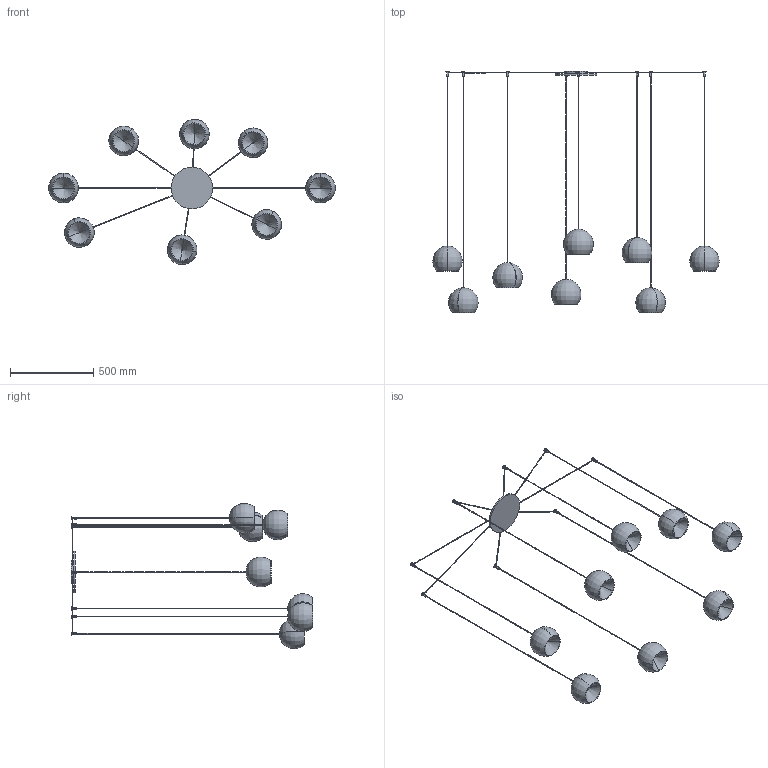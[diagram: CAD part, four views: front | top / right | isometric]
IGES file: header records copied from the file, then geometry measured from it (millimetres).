
Start section: SolidWorks IGES file using analytic representation for surfaces
Global section: file name: Y:\eforma\TECNICO\SOLIDWORKS\E-FORMA\09-LAMPADE\CHERRY\02 parts\CHRA6-00-CHERRY_8 sospensione.IGS; native system: SolidWorks 2022; preprocessor: SolidWorks 2022; author: eforma.tech; date: 250506.081822; units: millimetre
Bounding box: 1719.72 x 1450 x 873.69 mm (x, y, z)
Volume: 2385411.7 mm3; surface area: 1963060.6 mm2
Topology: 41 solids, 41 shells, 302 faces, 635 edges, 400 vertices
Faces by surface type: revolution 203, plane 99
